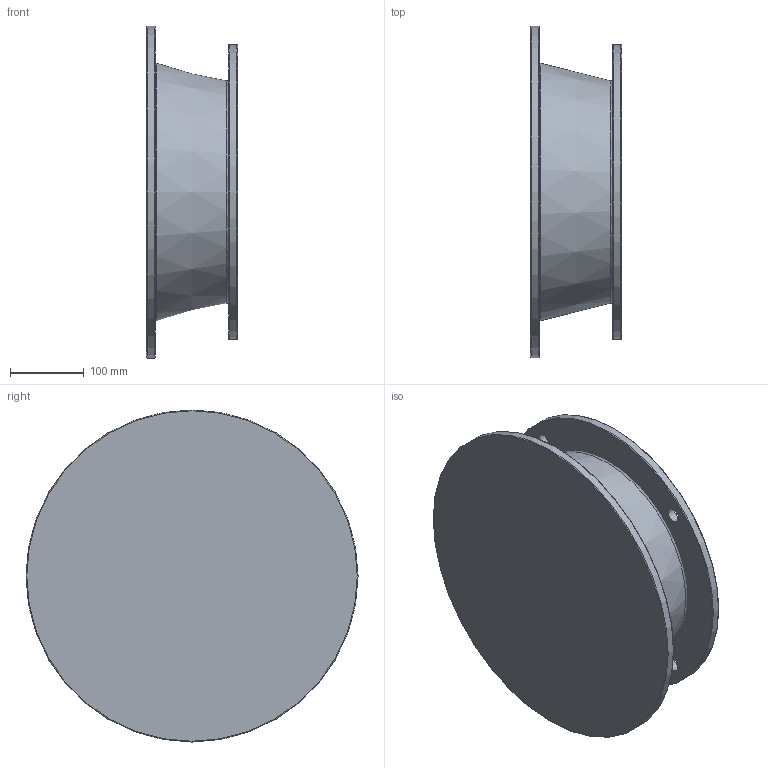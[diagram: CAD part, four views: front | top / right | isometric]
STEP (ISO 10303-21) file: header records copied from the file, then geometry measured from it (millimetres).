
FILE_DESCRIPTION((''),'2;1');
FILE_NAME('C:\Users\oem\Desktop\PAWEŁ\12 PRYWATNE\DualSystem\001 Modele\DKAB120_\DK_120_STEP\200_B5_L123,5.stp','2011-12-14T16:17:52',('oem'),(''),'Autodesk Inventor 2009','Autodesk Inventor 2009','');
FILE_SCHEMA(('AUTOMOTIVE_DESIGN { 1 0 10303 214 1 1 1 1 }'));
Length unit declared in the file: millimetre
Products named in the file (1): 200_B5_L123,5
Bounding box: 123.5 x 450 x 450 mm (x, y, z)
Volume: 3581301 mm3; surface area: 721344.6 mm2
Topology: 1 solids, 1 shells, 30 faces, 58 edges, 36 vertices
Faces by surface type: plane 11, cylinder 6, bspline 6, torus 5, cone 2
Full cylindrical faces by diameter (mm): 85 x1, 287.627 x1, 300 x1, 400 x1, 450 x1
Entity records: 895 total; most frequent: CARTESIAN_POINT 281, DIRECTION 120, ORIENTED_EDGE 80, EDGE_LOOP 62, AXIS2_PLACEMENT_3D 55, EDGE_CURVE 40, VERTEX_POINT 36, FACE_BOUND 32
